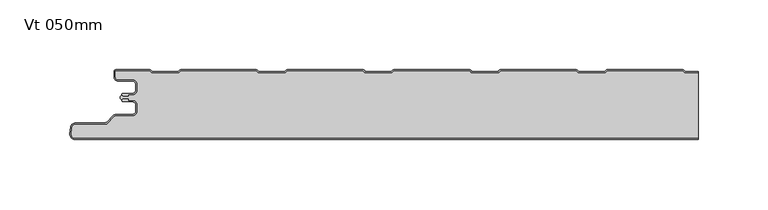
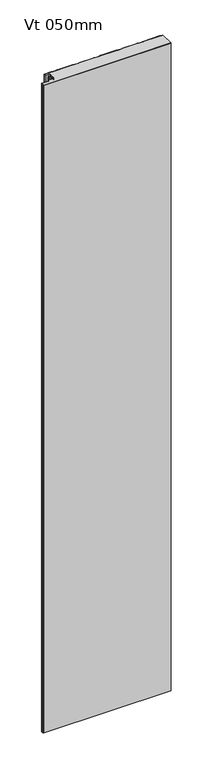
"""IFC4 building model written with IfcOpenShell, lengths in millimetres: plate geometry, KIP-MEX-KSS-1067-R19-CP-Vt-OP_SL : Vt 050mm."""

from ifc_helpers import new_model, si_unit, point, frame, frame_2d, origin, origin_with_axes, place, context, project, spatial, polyline, circle_curve, trimmed, segment, composite_curve, outline, extrude, source, transform, mapped, element, save
from ifc_brep_helpers import plane_surface, cylinder_surface, revolved_surface, advanced_brep


def vt_050mm_d62c415d(model_context):
    return source(origin(), model_context, "Body", "SolidModel", [
        advanced_brep(
        [(-205.4683, -21.670875, 2400.0), (-204.267176, -20.5014003, 2400.0), (-200.5087826, -20.5014003, 2400.0), (-200.5087826, -21.8998791, 2400.0), (-197.8096715, -21.8998791, 2400.0), (-194.4596762, -25.2498744, 2400.0), (-194.4596762, -29.6498656, 2400.0), (-197.8096715, -32.9998609, 2400.0), (-209.6205606, -32.9998609, 2400.0), (-210.8226383, -33.4977778, 2400.0), (-216.3247094, -38.9998489, 2400.0), (-238.4198391, -38.9998489, 2400.0), (-241.0765707, -41.2184509, 2400.0), (-241.5125697, -46.2002718, 2400.0), (-238.9521175, -48.9945967, 2400.0), (206.4999998, -49.0, 2400.0), (206.4999998, -2.2002391, 2400.0), (196.9189068, -2.2002391, 2400.0), (195.5332739, -1.0000084, 2400.0), (141.4798585, -1.0000084, 2400.0), (140.0942255, -2.2002391, 2400.0), (120.7190592, -2.2002391, 2400.0), (119.3334263, -1.0000084, 2400.0), (65.2800109, -1.0000084, 2400.0), (63.8943779, -2.2002391, 2400.0), (44.5192116, -2.2002391, 2400.0), (43.1335787, -1.0000084, 2400.0), (-10.9198367, -1.0000084, 2400.0), (-12.3054697, -2.2002391, 2400.0), (-31.680636, -2.2002391, 2400.0), (-33.0662689, -1.0000084, 2400.0), (-87.1196843, -1.0000084, 2400.0), (-88.5053173, -2.2002391, 2400.0), (-107.8804836, -2.2002391, 2400.0), (-109.2661165, -1.0000084, 2400.0), (-163.3195319, -1.0000084, 2400.0), (-164.7051649, -2.2002391, 2400.0), (-184.0803312, -2.2002391, 2400.0), (-185.4659738, -1.0, 2400.0), (-209.9662504, -1.0, 2400.0), (-209.9662504, -5.2315473, 2400.0), (-208.1962562, -7.0015415, 2400.0), (-197.7762777, -7.0015415, 2400.0), (-194.4762818, -10.3015374, 2400.0), (-194.4762818, -14.7015286, 2400.0), (-197.7762775, -18.0015243, 2400.0), (-200.4684873, -18.0015243, 2400.0), (-200.4684873, -19.0015188, 2400.0), (-204.468691, -19.0015188, 2400.0), (-205.4686882, -18.0015275, 2400.0), (-206.4999998, -19.0328392, 2400.0), (-206.4999998, -20.6391751, 2400.0), (-205.4683, -21.670875, 0.0), (-206.4999998, -20.6391751, 0.0), (-206.4999998, -19.0328392, 0.0), (-205.4686882, -18.0015275, 0.0), (-204.468691, -19.0015188, 0.0), (-200.4684873, -19.0015188, 0.0), (-200.4684873, -18.0015243, 0.0), (-197.7762775, -18.0015243, 0.0), (-194.4762818, -14.7015286, 0.0), (-194.4762818, -10.3015374, 0.0), (-197.7762777, -7.0015415, 0.0), (-208.1962562, -7.0015415, 0.0), (-209.9662504, -5.2315473, 0.0), (-209.9662504, -1.0, 0.0), (-185.4659738, -1.0, 0.0), (-184.0803312, -2.2002391, 0.0), (-164.7051649, -2.2002391, 0.0), (-163.3195319, -1.0000084, 0.0), (-109.2661165, -1.0000084, 0.0), (-107.8804836, -2.2002391, 0.0), (-88.5053173, -2.2002391, 0.0), (-87.1196843, -1.0000084, 0.0), (-33.0662689, -1.0000084, 0.0), (-31.680636, -2.2002391, 0.0), (-12.3054697, -2.2002391, 0.0), (-10.9198367, -1.0000084, 0.0), (43.1335787, -1.0000084, 0.0), (44.5192116, -2.2002391, 0.0), (63.8943779, -2.2002391, 0.0), (65.2800109, -1.0000084, 0.0), (119.3334263, -1.0000084, 0.0), (120.7190592, -2.2002391, 0.0), (140.0942255, -2.2002391, 0.0), (141.4798585, -1.0000084, 0.0), (195.5332739, -1.0000084, 0.0), (196.9189068, -2.2002391, 0.0), (206.4999998, -2.2002391, 0.0), (206.4999998, -49.0, 0.0), (-238.9521175, -49.0, 0.0), (-241.5125697, -46.2002718, 0.0), (-241.0765707, -41.2184509, 0.0), (-238.4198391, -38.9998489, 0.0), (-216.3247094, -38.9998489, 0.0), (-210.8226383, -33.4977778, 0.0), (-209.6205606, -32.9998609, 0.0), (-197.8096715, -32.9998609, 0.0), (-194.4596762, -29.6498656, 0.0), (-194.4596762, -25.2498744, 0.0), (-197.8096715, -21.8998791, 0.0), (-200.5087826, -21.8998791, 0.0), (-200.5087826, -20.5014003, 0.0), (-204.267176, -20.5014003, 0.0)],
        [
            (0, 1, circle_curve(frame((-204.2686906, -21.7013969, 2400.0), z_axis=(0.0, 0.0, -1.0), x_axis=(-1.0, 0.0, 0.0)), 1.1999976)),
            (1, 2),
            (2, 3),
            (3, 4),
            (4, 5, circle_curve(frame((-197.8096715, -25.2498744, 2400.0), z_axis=(0.0, 0.0, -1.0), x_axis=(-1.0, 0.0, 0.0)), 3.3499953)),
            (5, 6),
            (6, 7, circle_curve(frame((-197.8096715, -29.6498656, 2400.0), z_axis=(0.0, 0.0, -1.0), x_axis=(-1.0, 0.0, 0.0)), 3.3499953)),
            (7, 8),
            (8, 9, circle_curve(frame((-209.6205606, -34.6998555, 2400.0), z_axis=(0.0, 0.0, 1.0), x_axis=(-1.0, 0.0, 0.0)), 1.6999946)),
            (9, 10),
            (10, 11),
            (11, 12, circle_curve(frame((-238.4198391, -41.6998415, 2400.0), z_axis=(0.0, 0.0, 1.0), x_axis=(-1.0, 0.0, 0.0)), 2.6999926)),
            (12, 13),
            (13, 14, circle_curve(frame((-238.9521175, -46.4243575, 2400.0), z_axis=(0.0, 0.0, 1.0), x_axis=(-1.0, 0.0, 0.0)), 2.5702393)),
            (14, 15),
            (15, 16),
            (16, 17),
            (17, 18),
            (18, 19),
            (19, 20),
            (20, 21),
            (21, 22),
            (22, 23),
            (23, 24),
            (24, 25),
            (25, 26),
            (26, 27),
            (27, 28),
            (28, 29),
            (29, 30),
            (30, 31),
            (31, 32),
            (32, 33),
            (33, 34),
            (34, 35),
            (35, 36),
            (36, 37),
            (37, 38),
            (38, 39),
            (39, 40),
            (40, 41, circle_curve(frame((-208.1962562, -5.2315473, 2400.0), z_axis=(0.0, 0.0, 1.0), x_axis=(-1.0, 0.0, 0.0)), 1.7699942)),
            (41, 42),
            (42, 43, circle_curve(frame((-197.7762777, -10.3015374, 2400.0), z_axis=(0.0, 0.0, -1.0), x_axis=(-1.0, 0.0, 0.0)), 3.2999959)),
            (43, 44),
            (44, 45, circle_curve(frame((-197.7762775, -14.7015286, 2400.0), z_axis=(0.0, 0.0, -1.0), x_axis=(-1.0, 0.0, 0.0)), 3.2999957)),
            (45, 46),
            (46, 47),
            (47, 48),
            (48, 49, circle_curve(frame((-204.468691, -18.0015216, 2400.0), z_axis=(0.0, 0.0, -1.0), x_axis=(-1.0, 0.0, 0.0)), 0.9999972)),
            (49, 50),
            (50, 51),
            (51, 0),
            (52, 53),
            (53, 54),
            (54, 55),
            (55, 56, circle_curve(frame((-204.468691, -18.0015216, 0.0), z_axis=(0.0, 0.0, 1.0), x_axis=(-1.0, 0.0, 0.0)), 0.9999972)),
            (56, 57),
            (57, 58),
            (58, 59),
            (59, 60, circle_curve(frame((-197.7762775, -14.7015286, 0.0), z_axis=(0.0, 0.0, 1.0), x_axis=(-1.0, 0.0, 0.0)), 3.2999957)),
            (60, 61),
            (61, 62, circle_curve(frame((-197.7762777, -10.3015374, 0.0), z_axis=(0.0, 0.0, 1.0), x_axis=(-1.0, 0.0, 0.0)), 3.2999959)),
            (62, 63),
            (63, 64, circle_curve(frame((-208.1962562, -5.2315473, 0.0), z_axis=(0.0, 0.0, -1.0), x_axis=(-1.0, 0.0, 0.0)), 1.7699942)),
            (64, 65),
            (65, 66),
            (66, 67),
            (67, 68),
            (68, 69),
            (69, 70),
            (70, 71),
            (71, 72),
            (72, 73),
            (73, 74),
            (74, 75),
            (75, 76),
            (76, 77),
            (77, 78),
            (78, 79),
            (79, 80),
            (80, 81),
            (81, 82),
            (82, 83),
            (83, 84),
            (84, 85),
            (85, 86),
            (86, 87),
            (87, 88),
            (88, 89),
            (89, 90),
            (90, 91, circle_curve(frame((-238.9521175, -46.4243575, 0.0), z_axis=(0.0, 0.0, -1.0), x_axis=(-1.0, 0.0, 0.0)), 2.5702393)),
            (91, 92),
            (92, 93, circle_curve(frame((-238.4198391, -41.6998415, 0.0), z_axis=(0.0, 0.0, -1.0), x_axis=(-1.0, 0.0, 0.0)), 2.6999926)),
            (93, 94),
            (94, 95),
            (95, 96, circle_curve(frame((-209.6205606, -34.6998555, 0.0), z_axis=(0.0, 0.0, -1.0), x_axis=(-1.0, 0.0, 0.0)), 1.6999946)),
            (96, 97),
            (97, 98, circle_curve(frame((-197.8096715, -29.6498656, 0.0), z_axis=(0.0, 0.0, 1.0), x_axis=(-1.0, 0.0, 0.0)), 3.3499953)),
            (98, 99),
            (99, 100, circle_curve(frame((-197.8096715, -25.2498744, 0.0), z_axis=(0.0, 0.0, 1.0), x_axis=(-1.0, 0.0, 0.0)), 3.3499953)),
            (100, 101),
            (101, 102),
            (102, 103),
            (103, 52, circle_curve(frame((-204.2686906, -21.7013969, 0.0), z_axis=(0.0, 0.0, 1.0), x_axis=(-1.0, 0.0, 0.0)), 1.1999976)),
            (51, 53),
            (52, 0),
            (50, 54),
            (49, 55),
            (48, 56),
            (47, 57),
            (46, 58),
            (45, 59),
            (44, 60),
            (43, 61),
            (42, 62),
            (41, 63),
            (40, 64),
            (39, 65),
            (4, 100),
            (99, 5),
            (3, 101),
            (2, 102),
            (1, 103),
            (38, 66),
            (37, 67),
            (36, 68),
            (35, 69),
            (34, 70),
            (33, 71),
            (32, 72),
            (31, 73),
            (30, 74),
            (29, 75),
            (28, 76),
            (27, 77),
            (26, 78),
            (25, 79),
            (24, 80),
            (23, 81),
            (22, 82),
            (21, 83),
            (20, 84),
            (19, 85),
            (18, 86),
            (17, 87),
            (16, 88),
            (15, 89),
            (14, 90),
            (13, 91),
            (12, 92),
            (11, 93),
            (10, 94),
            (9, 95),
            (8, 96),
            (7, 97),
            (6, 98),
        ],
        [
            plane_surface(frame((326.9000002, -49.0, 2400.0), z_axis=(0.0, 0.0, 1.0), x_axis=(0.0, -1.0, 0.0))),
            plane_surface(frame((326.9000002, -49.0, 0.0), z_axis=(0.0, 0.0, -1.0), x_axis=(0.0, -1.0, 0.0))),
            plane_surface(frame((-205.4683, -21.670875, 2400.0), z_axis=(-0.707106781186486, -0.7071067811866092, 0.0), x_axis=(0.0, 0.0, -1.0))),
            plane_surface(frame((-206.4999998, -20.6391751, 2400.0), z_axis=(-1.0, 0.0, 0.0), x_axis=(0.0, 0.0, -1.0))),
            plane_surface(frame((-206.4999998, -19.0328392, 2400.0), z_axis=(-0.7071067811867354, 0.7071067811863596, 0.0), x_axis=(0.0, 0.0, -1.0))),
            revolved_surface(polyline([(-205.4686882, -18.0015216, 0.0), (-205.4686882, -18.0015216, 2400.0)]), (-204.468691, -18.0015216, 2400.0), (0.0, 0.0, -1.0)),
            plane_surface(frame((-204.468691, -19.0015188, 2400.0), z_axis=(0.0, 1.0, 0.0), x_axis=(0.0, 0.0, -1.0))),
            plane_surface(frame((-200.4684873, -19.0015188, 2400.0), z_axis=(-1.0, 0.0, 0.0), x_axis=(0.0, 0.0, -1.0))),
            plane_surface(frame((-200.4684873, -18.0015243, 2400.0), z_axis=(0.0, 1.0, 0.0), x_axis=(0.0, 0.0, -1.0))),
            revolved_surface(polyline([(-201.0762732, -14.7015286, 0.0), (-201.0762732, -14.7015286, 2400.0)]), (-197.7762775, -14.7015286, 2400.0), (0.0, 0.0, -1.0)),
            plane_surface(frame((-194.4762818, -14.7015286, 2400.0), z_axis=(-1.0, 0.0, 0.0), x_axis=(0.0, 0.0, -1.0))),
            revolved_surface(polyline([(-201.0762736, -10.3015374, 0.0), (-201.0762736, -10.3015374, 2400.0)]), (-197.7762777, -10.3015374, 2400.0), (0.0, 0.0, -1.0)),
            plane_surface(frame((-197.7762777, -7.0015415, 2400.0), z_axis=(0.0, -1.0, 0.0), x_axis=(0.0, 0.0, -1.0))),
            cylinder_surface(frame((-208.1962562, -5.2315473, 2400.0), z_axis=(0.0, 0.0, 1.0), x_axis=(-1.0, 0.0, 0.0)), 1.7699942),
            plane_surface(frame((-209.9662504, -5.2315473, 2400.0), z_axis=(-1.0, 0.0, 0.0), x_axis=(0.0, 0.0, -1.0))),
            revolved_surface(polyline([(-201.1596668, -25.2498744, 0.0), (-201.1596668, -25.2498744, 2400.0)]), (-197.8096715, -25.2498744, 2400.0), (0.0, 0.0, -1.0)),
            plane_surface(frame((-197.8096715, -21.8998791, 2400.0), z_axis=(0.0, -1.0, 0.0), x_axis=(0.0, 0.0, -1.0))),
            plane_surface(frame((-200.5087826, -21.8998791, 2400.0), z_axis=(-1.0, 0.0, 0.0), x_axis=(0.0, 0.0, -1.0))),
            plane_surface(frame((-200.5087826, -20.5014003, 2400.0), z_axis=(0.0, -1.0, 0.0), x_axis=(0.0, 0.0, -1.0))),
            revolved_surface(polyline([(-205.4686882, -21.7013969, 0.0), (-205.4686882, -21.7013969, 2400.0)]), (-204.2686906, -21.7013969, 2400.0), (0.0, 0.0, -1.0)),
            plane_surface(frame((-209.9662504, -1.0, 2400.0), z_axis=(0.0, 1.0, 0.0), x_axis=(0.0, 0.0, -1.0))),
            plane_surface(frame((-185.4659738, -1.0, 2400.0), z_axis=(0.6547276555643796, 0.7558648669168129, 0.0), x_axis=(0.0, 0.0, -1.0))),
            plane_surface(frame((-184.0803312, -2.2002391, 2400.0), z_axis=(0.0, 1.0, 0.0), x_axis=(0.0, 0.0, -1.0))),
            plane_surface(frame((-164.7051649, -2.2002391, 2400.0), z_axis=(-0.6547276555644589, 0.7558648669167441, 0.0), x_axis=(0.0, 0.0, -1.0))),
            plane_surface(frame((-163.3195319, -1.0000084, 2400.0), z_axis=(0.0, 1.0, 0.0), x_axis=(0.0, 0.0, -1.0))),
            plane_surface(frame((-109.2661165, -1.0000084, 2400.0), z_axis=(0.6547276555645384, 0.7558648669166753, 0.0), x_axis=(0.0, 0.0, -1.0))),
            plane_surface(frame((-107.8804836, -2.2002391, 2400.0), z_axis=(0.0, 1.0, 0.0), x_axis=(0.0, 0.0, -1.0))),
            plane_surface(frame((-88.5053173, -2.2002391, 2400.0), z_axis=(-0.6547276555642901, 0.7558648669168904, 0.0), x_axis=(0.0, 0.0, -1.0))),
            plane_surface(frame((-87.1196843, -1.0000084, 2400.0), z_axis=(0.0, 1.0, 0.0), x_axis=(0.0, 0.0, -1.0))),
            plane_surface(frame((-33.0662689, -1.0000084, 2400.0), z_axis=(0.6547276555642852, 0.7558648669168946, 0.0), x_axis=(0.0, 0.0, -1.0))),
            plane_surface(frame((-31.680636, -2.2002391, 2400.0), z_axis=(0.0, 1.0, 0.0), x_axis=(0.0, 0.0, -1.0))),
            plane_surface(frame((-12.3054697, -2.2002391, 2400.0), z_axis=(-0.6547276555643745, 0.7558648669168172, 0.0), x_axis=(0.0, 0.0, -1.0))),
            plane_surface(frame((-10.9198367, -1.0000084, 2400.0), z_axis=(0.0, 1.0, 0.0), x_axis=(0.0, 0.0, -1.0))),
            plane_surface(frame((43.1335787, -1.0000084, 2400.0), z_axis=(0.6547276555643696, 0.7558648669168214, 0.0), x_axis=(0.0, 0.0, -1.0))),
            plane_surface(frame((44.5192116, -2.2002391, 2400.0), z_axis=(0.0, 1.0, 0.0), x_axis=(0.0, 0.0, -1.0))),
            plane_surface(frame((63.8943779, -2.2002391, 2400.0), z_axis=(-0.6547276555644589, 0.7558648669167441, 0.0), x_axis=(0.0, 0.0, -1.0))),
            plane_surface(frame((65.2800109, -1.0000084, 2400.0), z_axis=(0.0, 1.0, 0.0), x_axis=(0.0, 0.0, -1.0))),
            plane_surface(frame((119.3334263, -1.0000084, 2400.0), z_axis=(0.654727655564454, 0.7558648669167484, 0.0), x_axis=(0.0, 0.0, -1.0))),
            plane_surface(frame((120.7190592, -2.2002391, 2400.0), z_axis=(0.0, 1.0, 0.0), x_axis=(0.0, 0.0, -1.0))),
            plane_surface(frame((140.0942255, -2.2002391, 2400.0), z_axis=(-0.6547276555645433, 0.7558648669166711, 0.0), x_axis=(0.0, 0.0, -1.0))),
            plane_surface(frame((141.4798585, -1.0000084, 2400.0), z_axis=(0.0, 1.0, 0.0), x_axis=(0.0, 0.0, -1.0))),
            plane_surface(frame((195.5332739, -1.0000084, 2400.0), z_axis=(0.6547276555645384, 0.7558648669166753, 0.0), x_axis=(0.0, 0.0, -1.0))),
            plane_surface(frame((196.9189068, -2.2002391, 2400.0), z_axis=(0.0, 1.0, 0.0), x_axis=(0.0, 0.0, -1.0))),
            plane_surface(frame((206.4999998, -60.0, 2400.0), z_axis=(1.0, 0.0, 0.0), x_axis=(0.0, 0.0, -1.0))),
            plane_surface(frame((818.1656221, -49.0, 2400.0), z_axis=(0.0, -1.0, 0.0), x_axis=(0.0, 0.0, -1.0))),
            cylinder_surface(frame((-238.9521175, -46.4243575, 2400.0), z_axis=(0.0, 0.0, 1.0), x_axis=(-1.0, 0.0, 0.0)), 2.5702393),
            plane_surface(frame((-241.5125697, -46.2002718, 2400.0), z_axis=(-0.9961921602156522, 0.08718474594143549, 0.0), x_axis=(0.0, 0.0, -1.0))),
            cylinder_surface(frame((-238.4198391, -41.6998415, 2400.0), z_axis=(0.0, 0.0, 1.0), x_axis=(-1.0, 0.0, 0.0)), 2.6999926),
            plane_surface(frame((-238.4198391, -38.9998489, 2400.0), z_axis=(0.0, 1.0, 0.0), x_axis=(0.0, 0.0, -1.0))),
            plane_surface(frame((-216.3247094, -38.9998489, 2400.0), z_axis=(-0.7071067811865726, 0.7071067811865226, 0.0), x_axis=(0.0, 0.0, -1.0))),
            cylinder_surface(frame((-209.6205606, -34.6998555, 2400.0), z_axis=(0.0, 0.0, 1.0), x_axis=(-1.0, 0.0, 0.0)), 1.6999946),
            plane_surface(frame((-209.6205606, -32.9998609, 2400.0), z_axis=(0.0, 1.0, 0.0), x_axis=(0.0, 0.0, -1.0))),
            revolved_surface(polyline([(-201.1596668, -29.6498656, 0.0), (-201.1596668, -29.6498656, 2400.0)]), (-197.8096715, -29.6498656, 2400.0), (0.0, 0.0, -1.0)),
            plane_surface(frame((-194.4596762, -29.6498656, 2400.0), z_axis=(-1.0, 0.0, 0.0), x_axis=(0.0, 0.0, -1.0))),
        ],
        [
            (0, [[1, 2, 3, 4, 5, 6, 7, 8, 9, 10, 11, 12, 13, 14, 15, 16, 17, 18, 19, 20, 21, 22, 23, 24, 25, 26, 27, 28, 29, 30, 31, 32, 33, 34, 35, 36, 37, 38, 39, 40, 41, 42, 43, 44, 45, 46, 47, 48, 49, 50, 51, 52]]),
            (1, [[53, 54, 55, 56, 57, 58, 59, 60, 61, 62, 63, 64, 65, 66, 67, 68, 69, 70, 71, 72, 73, 74, 75, 76, 77, 78, 79, 80, 81, 82, 83, 84, 85, 86, 87, 88, 89, 90, 91, 92, 93, 94, 95, 96, 97, 98, 99, 100, 101, 102, 103, 104]]),
            (2, [[105, -53, 106, -52]]),
            (3, [[107, -54, -105, -51]]),
            (4, [[108, -55, -107, -50]]),
            (5, [[109, -56, -108, -49]]),
            (6, [[110, -57, -109, -48]]),
            (7, [[111, -58, -110, -47]]),
            (8, [[112, -59, -111, -46]]),
            (9, [[113, -60, -112, -45]]),
            (10, [[114, -61, -113, -44]]),
            (11, [[115, -62, -114, -43]]),
            (12, [[116, -63, -115, -42]]),
            (13, [[117, -64, -116, -41]]),
            (14, [[118, -65, -117, -40]]),
            (15, [[119, -100, 120, -5]]),
            (16, [[121, -101, -119, -4]]),
            (17, [[122, -102, -121, -3]]),
            (18, [[123, -103, -122, -2]]),
            (19, [[-106, -104, -123, -1]]),
            (20, [[124, -66, -118, -39]]),
            (21, [[125, -67, -124, -38]]),
            (22, [[126, -68, -125, -37]]),
            (23, [[127, -69, -126, -36]]),
            (24, [[128, -70, -127, -35]]),
            (25, [[129, -71, -128, -34]]),
            (26, [[130, -72, -129, -33]]),
            (27, [[131, -73, -130, -32]]),
            (28, [[132, -74, -131, -31]]),
            (29, [[133, -75, -132, -30]]),
            (30, [[134, -76, -133, -29]]),
            (31, [[135, -77, -134, -28]]),
            (32, [[136, -78, -135, -27]]),
            (33, [[137, -79, -136, -26]]),
            (34, [[138, -80, -137, -25]]),
            (35, [[139, -81, -138, -24]]),
            (36, [[140, -82, -139, -23]]),
            (37, [[141, -83, -140, -22]]),
            (38, [[142, -84, -141, -21]]),
            (39, [[143, -85, -142, -20]]),
            (40, [[144, -86, -143, -19]]),
            (41, [[145, -87, -144, -18]]),
            (42, [[-17, 146, -88, -145]]),
            (43, [[147, -89, -146, -16]]),
            (44, [[-90, -147, -15, 148]]),
            (45, [[149, -91, -148, -14]]),
            (46, [[150, -92, -149, -13]]),
            (47, [[151, -93, -150, -12]]),
            (48, [[152, -94, -151, -11]]),
            (49, [[153, -95, -152, -10]]),
            (50, [[154, -96, -153, -9]]),
            (51, [[155, -97, -154, -8]]),
            (52, [[156, -98, -155, -7]]),
            (53, [[-120, -99, -156, -6]]),
        ],
    ),
        advanced_brep(
        [(-204.468691, -17.0015159, 2400.0), (-205.4686883, -18.0015191, 2400.0), (-204.468691, -19.0015105, 2400.0), (-200.4684874, -19.0015105, 2400.0), (-200.4684874, -18.0015159, 2400.0), (-197.7762776, -18.0015159, 2400.0), (-194.4762819, -14.7015202, 2400.0), (-194.4762819, -10.301529, 2400.0), (-197.7762774, -7.0015335, 2400.0), (-208.1962563, -7.0015335, 2400.0), (-209.9662505, -5.2315393, 2400.0), (-209.9662505, -0.9999916, 2400.0), (-185.4659738, -0.9999916, 2400.0), (-184.0803312, -2.2002307, 2400.0), (-164.7051649, -2.2002307, 2400.0), (-163.319532, -1.0, 2400.0), (-109.2661166, -1.0, 2400.0), (-107.8804836, -2.2002307, 2400.0), (-88.5053173, -2.2002307, 2400.0), (-87.1196844, -1.0, 2400.0), (-33.066269, -1.0, 2400.0), (-31.680636, -2.2002307, 2400.0), (-12.3054697, -2.2002307, 2400.0), (-10.9198368, -1.0, 2400.0), (43.1335786, -1.0, 2400.0), (44.5192116, -2.2002307, 2400.0), (63.8943779, -2.2002307, 2400.0), (65.2800108, -1.0, 2400.0), (119.3334262, -1.0, 2400.0), (120.7190592, -2.2002307, 2400.0), (140.0942255, -2.2002307, 2400.0), (141.4798584, -1.0, 2400.0), (195.5332738, -1.0, 2400.0), (196.9189068, -2.2002307, 2400.0), (206.4999998, -2.2002307, 2400.0), (206.4999998, -1.2002307, 2400.0), (197.2917872, -1.2002307, 2400.0), (196.3007396, -0.3417885, 2400.0), (195.3841227, 0.0, 2400.0), (141.6290096, 0.0, 2400.0), (140.7123927, -0.3417885, 2400.0), (139.7213451, -1.2002307, 2400.0), (121.0919396, -1.2002307, 2400.0), (120.100892, -0.3417885, 2400.0), (119.1842751, 0.0, 2400.0), (65.429162, 0.0, 2400.0), (64.5125451, -0.3417885, 2400.0), (63.5214975, -1.2002307, 2400.0), (44.892092, -1.2002307, 2400.0), (43.9010444, -0.3417885, 2400.0), (42.9844275, 0.0, 2400.0), (-10.7706856, 0.0, 2400.0), (-11.6873025, -0.3417885, 2400.0), (-12.6783501, -1.2002307, 2400.0), (-31.3077556, -1.2002307, 2400.0), (-32.2988032, -0.3417885, 2400.0), (-33.2154201, 0.0, 2400.0), (-86.9705332, 0.0, 2400.0), (-87.8871501, -0.3417885, 2400.0), (-88.8781977, -1.2002307, 2400.0), (-107.5076032, -1.2002307, 2400.0), (-108.4986508, -0.3417885, 2400.0), (-109.4152677, 0.0, 2400.0), (-163.1703808, 0.0, 2400.0), (-164.0869977, -0.3417885, 2400.0), (-165.0780453, -1.2002307, 2400.0), (-183.7074508, -1.2002307, 2400.0), (-184.6984984, -0.3417885, 2400.0), (-185.6152067, 0.0, 2400.0), (-209.5662543, 8.4e-06, 2400.0), (-210.9662505, -1.3999878, 2400.0), (-210.9662505, -5.2315393, 2400.0), (-208.1962563, -8.0015335, 2400.0), (-197.7762774, -8.0015335, 2400.0), (-195.4762819, -10.301529, 2400.0), (-195.4762819, -14.7015202, 2400.0), (-197.7762776, -17.0015159, 2400.0), (-204.468691, -17.0015159, 0.0), (-197.7762776, -17.0015159, 0.0), (-195.4762819, -14.7015202, 0.0), (-195.4762819, -10.301529, 0.0), (-197.7762774, -8.0015335, 0.0), (-208.1962563, -8.0015335, 0.0), (-210.9662505, -5.2315393, 0.0), (-210.9662505, -1.3999878, 0.0), (-209.5662543, 8.4e-06, 0.0), (-185.6151153, 8.4e-06, 0.0), (-184.6984984, -0.3417885, 0.0), (-183.7074508, -1.2002307, 0.0), (-165.0780453, -1.2002307, 0.0), (-164.0869977, -0.3417885, 0.0), (-163.1703808, 0.0, 0.0), (-109.4152677, 0.0, 0.0), (-108.4986508, -0.3417885, 0.0), (-107.5076032, -1.2002307, 0.0), (-88.8781977, -1.2002307, 0.0), (-87.8871501, -0.3417885, 0.0), (-86.9705332, 0.0, 0.0), (-33.2154201, 0.0, 0.0), (-32.2988032, -0.3417885, 0.0), (-31.3077556, -1.2002307, 0.0), (-12.6783501, -1.2002307, 0.0), (-11.6873025, -0.3417885, 0.0), (-10.7706856, 0.0, 0.0), (42.9844275, 0.0, 0.0), (43.9010444, -0.3417885, 0.0), (44.892092, -1.2002307, 0.0), (63.5214975, -1.2002307, 0.0), (64.5125451, -0.3417885, 0.0), (65.429162, 0.0, 0.0), (119.1842751, 0.0, 0.0), (120.100892, -0.3417885, 0.0), (121.0919396, -1.2002307, 0.0), (139.7213451, -1.2002307, 0.0), (140.7123927, -0.3417885, 0.0), (141.6290096, 0.0, 0.0), (195.3841227, 0.0, 0.0), (196.3007396, -0.3417885, 0.0), (197.2917872, -1.2002307, 0.0), (206.4999998, -1.2002307, 0.0), (206.4999998, -2.2002307, 0.0), (196.9189068, -2.2002307, 0.0), (195.5332738, -1.0, 0.0), (141.4798584, -1.0, 0.0), (140.0942255, -2.2002307, 0.0), (120.7190592, -2.2002307, 0.0), (119.3334262, -1.0, 0.0), (65.2800108, -1.0, 0.0), (63.8943779, -2.2002307, 0.0), (44.5192116, -2.2002307, 0.0), (43.1335786, -1.0, 0.0), (-10.9198368, -1.0, 0.0), (-12.3054697, -2.2002307, 0.0), (-31.680636, -2.2002307, 0.0), (-33.066269, -1.0, 0.0), (-87.1196844, -1.0, 0.0), (-88.5053173, -2.2002307, 0.0), (-107.8804836, -2.2002307, 0.0), (-109.2661166, -1.0, 0.0), (-163.319532, -1.0, 0.0), (-164.7051649, -2.2002307, 0.0), (-184.0803312, -2.2002307, 0.0), (-185.4659738, -0.9999916, 0.0), (-209.9662505, -0.9999916, 0.0), (-209.9662505, -5.2315393, 0.0), (-208.1962563, -7.0015335, 0.0), (-197.7762774, -7.0015335, 0.0), (-194.4762819, -10.301529, 0.0), (-194.4762819, -14.7015202, 0.0), (-197.7762776, -18.0015159, 0.0), (-200.4684874, -18.0015159, 0.0), (-200.4684874, -19.0015105, 0.0), (-204.468691, -19.0015105, 0.0), (-205.4686882, -18.0015192, 0.0)],
        [
            (0, 1, circle_curve(frame((-204.468691, -18.0015132, 2400.0), z_axis=(0.0, 0.0, 1.0), x_axis=(1.0, 0.0, 0.0)), 0.9999973)),
            (1, 2, circle_curve(frame((-204.468691, -18.0015133, 2400.0), z_axis=(0.0, 0.0, 1.0), x_axis=(1.0, 0.0, 0.0)), 0.9999972)),
            (2, 3),
            (3, 4),
            (4, 5),
            (5, 6, circle_curve(frame((-197.7762776, -14.7015202, 2400.0), z_axis=(0.0, 0.0, 1.0), x_axis=(1.0, 0.0, 0.0)), 3.2999957)),
            (6, 7),
            (7, 8, circle_curve(frame((-197.7762774, -10.301529, 2400.0), z_axis=(0.0, 0.0, 1.0), x_axis=(1.0, 0.0, 0.0)), 3.2999955)),
            (8, 9),
            (9, 10, circle_curve(frame((-208.1962563, -5.2315393, 2400.0), z_axis=(0.0, 0.0, -1.0), x_axis=(1.0, 0.0, 0.0)), 1.7699942)),
            (10, 11),
            (11, 12),
            (12, 13),
            (13, 14),
            (14, 15),
            (15, 16),
            (16, 17),
            (17, 18),
            (18, 19),
            (19, 20),
            (20, 21),
            (21, 22),
            (22, 23),
            (23, 24),
            (24, 25),
            (25, 26),
            (26, 27),
            (27, 28),
            (28, 29),
            (29, 30),
            (30, 31),
            (31, 32),
            (32, 33),
            (33, 34),
            (34, 35),
            (35, 36),
            (36, 37),
            (37, 38, circle_curve(frame((195.3841227, -1.3999972, 2400.0), z_axis=(0.0, 0.0, 1.0), x_axis=(1.0, 0.0, 0.0)), 1.3999972)),
            (38, 39),
            (39, 40, circle_curve(frame((141.6290096, -1.3999972, 2400.0), z_axis=(0.0, 0.0, 1.0), x_axis=(1.0, 0.0, 0.0)), 1.3999972)),
            (40, 41),
            (41, 42),
            (42, 43),
            (43, 44, circle_curve(frame((119.1842751, -1.3999972, 2400.0), z_axis=(0.0, 0.0, 1.0), x_axis=(1.0, 0.0, 0.0)), 1.3999972)),
            (44, 45),
            (45, 46, circle_curve(frame((65.429162, -1.3999972, 2400.0), z_axis=(0.0, 0.0, 1.0), x_axis=(1.0, 0.0, 0.0)), 1.3999972)),
            (46, 47),
            (47, 48),
            (48, 49),
            (49, 50, circle_curve(frame((42.9844275, -1.3999972, 2400.0), z_axis=(0.0, 0.0, 1.0), x_axis=(1.0, 0.0, 0.0)), 1.3999972)),
            (50, 51),
            (51, 52, circle_curve(frame((-10.7706856, -1.3999972, 2400.0), z_axis=(0.0, 0.0, 1.0), x_axis=(1.0, 0.0, 0.0)), 1.3999972)),
            (52, 53),
            (53, 54),
            (54, 55),
            (55, 56, circle_curve(frame((-33.2154201, -1.3999972, 2400.0), z_axis=(0.0, 0.0, 1.0), x_axis=(1.0, 0.0, 0.0)), 1.3999972)),
            (56, 57),
            (57, 58, circle_curve(frame((-86.9705332, -1.3999972, 2400.0), z_axis=(0.0, 0.0, 1.0), x_axis=(1.0, 0.0, 0.0)), 1.3999972)),
            (58, 59),
            (59, 60),
            (60, 61),
            (61, 62, circle_curve(frame((-109.4152677, -1.3999972, 2400.0), z_axis=(0.0, 0.0, 1.0), x_axis=(1.0, 0.0, 0.0)), 1.3999972)),
            (62, 63),
            (63, 64, circle_curve(frame((-163.1703808, -1.3999972, 2400.0), z_axis=(0.0, 0.0, 1.0), x_axis=(1.0, 0.0, 0.0)), 1.3999972)),
            (64, 65),
            (65, 66),
            (66, 67),
            (67, 68, circle_curve(frame((-185.6151153, -1.3999972, 2400.0), z_axis=(0.0, 0.0, 1.0), x_axis=(1.0, 0.0, 0.0)), 1.3999972)),
            (68, 69),
            (69, 70, circle_curve(frame((-209.5662543, -1.3999878, 2400.0), z_axis=(0.0, 0.0, 1.0), x_axis=(1.0, 0.0, 0.0)), 1.3999962)),
            (70, 71),
            (71, 72, circle_curve(frame((-208.1962563, -5.2315393, 2400.0), z_axis=(0.0, 0.0, 1.0), x_axis=(1.0, 0.0, 0.0)), 2.7699942)),
            (72, 73),
            (73, 74, circle_curve(frame((-197.7762774, -10.301529, 2400.0), z_axis=(0.0, 0.0, -1.0), x_axis=(1.0, 0.0, 0.0)), 2.2999955)),
            (74, 75),
            (75, 76, circle_curve(frame((-197.7762776, -14.7015202, 2400.0), z_axis=(0.0, 0.0, -1.0), x_axis=(1.0, 0.0, 0.0)), 2.2999957)),
            (76, 0),
            (77, 78),
            (78, 79, circle_curve(frame((-197.7762776, -14.7015202, 0.0), z_axis=(0.0, 0.0, 1.0), x_axis=(1.0, 0.0, 0.0)), 2.2999957)),
            (79, 80),
            (80, 81, circle_curve(frame((-197.7762774, -10.301529, 0.0), z_axis=(0.0, 0.0, 1.0), x_axis=(1.0, 0.0, 0.0)), 2.2999955)),
            (81, 82),
            (82, 83, circle_curve(frame((-208.1962563, -5.2315393, 0.0), z_axis=(0.0, 0.0, -1.0), x_axis=(1.0, 0.0, 0.0)), 2.7699942)),
            (83, 84),
            (84, 85, circle_curve(frame((-209.5662543, -1.3999878, 0.0), z_axis=(0.0, 0.0, -1.0), x_axis=(1.0, 0.0, 0.0)), 1.3999962)),
            (85, 86),
            (86, 87, circle_curve(frame((-185.6151153, -1.3999972, 0.0), z_axis=(0.0, 0.0, -1.0), x_axis=(1.0, 0.0, 0.0)), 1.3999972)),
            (87, 88),
            (88, 89),
            (89, 90),
            (90, 91, circle_curve(frame((-163.1703808, -1.3999972, 0.0), z_axis=(0.0, 0.0, -1.0), x_axis=(1.0, 0.0, 0.0)), 1.3999972)),
            (91, 92),
            (92, 93, circle_curve(frame((-109.4152677, -1.3999972, 0.0), z_axis=(0.0, 0.0, -1.0), x_axis=(1.0, 0.0, 0.0)), 1.3999972)),
            (93, 94),
            (94, 95),
            (95, 96),
            (96, 97, circle_curve(frame((-86.9705332, -1.3999972, 0.0), z_axis=(0.0, 0.0, -1.0), x_axis=(1.0, 0.0, 0.0)), 1.3999972)),
            (97, 98),
            (98, 99, circle_curve(frame((-33.2154201, -1.3999972, 0.0), z_axis=(0.0, 0.0, -1.0), x_axis=(1.0, 0.0, 0.0)), 1.3999972)),
            (99, 100),
            (100, 101),
            (101, 102),
            (102, 103, circle_curve(frame((-10.7706856, -1.3999972, 0.0), z_axis=(0.0, 0.0, -1.0), x_axis=(1.0, 0.0, 0.0)), 1.3999972)),
            (103, 104),
            (104, 105, circle_curve(frame((42.9844275, -1.3999972, 0.0), z_axis=(0.0, 0.0, -1.0), x_axis=(1.0, 0.0, 0.0)), 1.3999972)),
            (105, 106),
            (106, 107),
            (107, 108),
            (108, 109, circle_curve(frame((65.429162, -1.3999972, 0.0), z_axis=(0.0, 0.0, -1.0), x_axis=(1.0, 0.0, 0.0)), 1.3999972)),
            (109, 110),
            (110, 111, circle_curve(frame((119.1842751, -1.3999972, 0.0), z_axis=(0.0, 0.0, -1.0), x_axis=(1.0, 0.0, 0.0)), 1.3999972)),
            (111, 112),
            (112, 113),
            (113, 114),
            (114, 115, circle_curve(frame((141.6290096, -1.3999972, 0.0), z_axis=(0.0, 0.0, -1.0), x_axis=(1.0, 0.0, 0.0)), 1.3999972)),
            (115, 116),
            (116, 117, circle_curve(frame((195.3841227, -1.3999972, 0.0), z_axis=(0.0, 0.0, -1.0), x_axis=(1.0, 0.0, 0.0)), 1.3999972)),
            (117, 118),
            (118, 119),
            (119, 120),
            (120, 121),
            (121, 122),
            (122, 123),
            (123, 124),
            (124, 125),
            (125, 126),
            (126, 127),
            (127, 128),
            (128, 129),
            (129, 130),
            (130, 131),
            (131, 132),
            (132, 133),
            (133, 134),
            (134, 135),
            (135, 136),
            (136, 137),
            (137, 138),
            (138, 139),
            (139, 140),
            (140, 141),
            (141, 142),
            (142, 143),
            (143, 144),
            (144, 145, circle_curve(frame((-208.1962563, -5.2315393, 0.0), z_axis=(0.0, 0.0, 1.0), x_axis=(1.0, 0.0, 0.0)), 1.7699942)),
            (145, 146),
            (146, 147, circle_curve(frame((-197.7762774, -10.301529, 0.0), z_axis=(0.0, 0.0, -1.0), x_axis=(1.0, 0.0, 0.0)), 3.2999955)),
            (147, 148),
            (148, 149, circle_curve(frame((-197.7762776, -14.7015202, 0.0), z_axis=(0.0, 0.0, -1.0), x_axis=(1.0, 0.0, 0.0)), 3.2999957)),
            (149, 150),
            (150, 151),
            (151, 152),
            (152, 153, circle_curve(frame((-204.468691, -18.0015133, 0.0), z_axis=(0.0, 0.0, -1.0), x_axis=(1.0, 0.0, 0.0)), 0.9999972)),
            (153, 77, circle_curve(frame((-204.468691, -18.0015132, 0.0), z_axis=(0.0, 0.0, -1.0), x_axis=(1.0, 0.0, 0.0)), 0.9999973)),
            (76, 78),
            (77, 0),
            (75, 79),
            (74, 80),
            (73, 81),
            (72, 82),
            (71, 83),
            (70, 84),
            (69, 85),
            (68, 86),
            (67, 87),
            (66, 88),
            (65, 89),
            (64, 90),
            (63, 91),
            (62, 92),
            (61, 93),
            (60, 94),
            (59, 95),
            (58, 96),
            (57, 97),
            (56, 98),
            (55, 99),
            (54, 100),
            (53, 101),
            (52, 102),
            (51, 103),
            (50, 104),
            (49, 105),
            (48, 106),
            (47, 107),
            (46, 108),
            (45, 109),
            (44, 110),
            (43, 111),
            (42, 112),
            (41, 113),
            (40, 114),
            (39, 115),
            (38, 116),
            (37, 117),
            (36, 118),
            (35, 119),
            (120, 34),
            (33, 121),
            (32, 122),
            (31, 123),
            (30, 124),
            (29, 125),
            (28, 126),
            (27, 127),
            (26, 128),
            (25, 129),
            (24, 130),
            (23, 131),
            (22, 132),
            (21, 133),
            (20, 134),
            (19, 135),
            (18, 136),
            (17, 137),
            (16, 138),
            (15, 139),
            (14, 140),
            (13, 141),
            (12, 142),
            (11, 143),
            (10, 144),
            (9, 145),
            (8, 146),
            (7, 147),
            (6, 148),
            (5, 149),
            (4, 150),
            (3, 151),
            (2, 152),
            (1, 153),
        ],
        [
            plane_surface(frame((326.9000002, 0.0, 2400.0), z_axis=(0.0, 0.0, 1.0), x_axis=(0.0, 1.0, 0.0))),
            plane_surface(frame((326.9000002, 0.0, 0.0), z_axis=(0.0, 0.0, -1.0), x_axis=(0.0, 1.0, 0.0))),
            plane_surface(frame((-204.468691, -17.0015159, 2400.0), z_axis=(0.0, 1.0, 0.0), x_axis=(0.0, 0.0, -1.0))),
            revolved_surface(polyline([(-195.47628189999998, -14.7015202, 0.0), (-195.47628189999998, -14.7015202, 2400.0)]), (-197.7762776, -14.7015202, 2400.0), (0.0, 0.0, -1.0)),
            plane_surface(frame((-195.4762819, -14.7015202, 2400.0), z_axis=(-1.0, 0.0, 0.0), x_axis=(0.0, 0.0, -1.0))),
            revolved_surface(polyline([(-195.4762819, -10.301529, 0.0), (-195.4762819, -10.301529, 2400.0)]), (-197.7762774, -10.301529, 2400.0), (0.0, 0.0, -1.0)),
            plane_surface(frame((-197.7762774, -8.0015335, 2400.0), z_axis=(0.0, -1.0, 0.0), x_axis=(0.0, 0.0, -1.0))),
            cylinder_surface(frame((-208.1962563, -5.2315393, 2400.0), z_axis=(0.0, 0.0, 1.0), x_axis=(1.0, 0.0, 0.0)), 2.7699942),
            plane_surface(frame((-210.9662505, -5.2315393, 2400.0), z_axis=(-1.0, 0.0, 0.0), x_axis=(0.0, 0.0, -1.0))),
            cylinder_surface(frame((-209.5662543, -1.3999878, 2400.0), z_axis=(0.0, 0.0, 1.0), x_axis=(1.0, 0.0, 0.0)), 1.3999962),
            plane_surface(frame((-209.5662543, 8.4e-06, 2400.0), z_axis=(0.0, 1.0, 0.0), x_axis=(0.0, 0.0, -1.0))),
            cylinder_surface(frame((-185.6151153, -1.3999972, 2400.0), z_axis=(0.0, 0.0, 1.0), x_axis=(1.0, 0.0, 0.0)), 1.3999972),
            plane_surface(frame((-184.6984984, -0.3417885, 2400.0), z_axis=(0.6547276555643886, 0.755864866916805, 0.0), x_axis=(0.0, 0.0, -1.0))),
            plane_surface(frame((-174.3927481, -1.2002307, 2400.0), z_axis=(0.0, 1.0, 0.0), x_axis=(0.0, 0.0, -1.0))),
            plane_surface(frame((-165.0780453, -1.2002307, 2400.0), z_axis=(-0.6547276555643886, 0.755864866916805, 0.0), x_axis=(0.0, 0.0, -1.0))),
            cylinder_surface(frame((-163.1703808, -1.3999972, 2400.0), z_axis=(0.0, 0.0, 1.0), x_axis=(1.0, 0.0, 0.0)), 1.3999972),
            plane_surface(frame((-163.1703808, 0.0, 2400.0), z_axis=(0.0, 1.0, 0.0), x_axis=(0.0, 0.0, -1.0))),
            cylinder_surface(frame((-109.4152677, -1.3999972, 2400.0), z_axis=(0.0, 0.0, 1.0), x_axis=(1.0, 0.0, 0.0)), 1.3999972),
            plane_surface(frame((-108.4986508, -0.3417885, 2400.0), z_axis=(0.6547276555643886, 0.755864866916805, 0.0), x_axis=(0.0, 0.0, -1.0))),
            plane_surface(frame((-98.1929005, -1.2002307, 2400.0), z_axis=(0.0, 1.0, 0.0), x_axis=(0.0, 0.0, -1.0))),
            plane_surface(frame((-88.8781977, -1.2002307, 2400.0), z_axis=(-0.6547276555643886, 0.755864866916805, 0.0), x_axis=(0.0, 0.0, -1.0))),
            cylinder_surface(frame((-86.9705332, -1.3999972, 2400.0), z_axis=(0.0, 0.0, 1.0), x_axis=(1.0, 0.0, 0.0)), 1.3999972),
            plane_surface(frame((-86.9705332, 0.0, 2400.0), z_axis=(0.0, 1.0, 0.0), x_axis=(0.0, 0.0, -1.0))),
            cylinder_surface(frame((-33.2154201, -1.3999972, 2400.0), z_axis=(0.0, 0.0, 1.0), x_axis=(1.0, 0.0, 0.0)), 1.3999972),
            plane_surface(frame((-32.2988032, -0.3417885, 2400.0), z_axis=(0.6547276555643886, 0.755864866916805, 0.0), x_axis=(0.0, 0.0, -1.0))),
            plane_surface(frame((-21.9930529, -1.2002307, 2400.0), z_axis=(0.0, 1.0, 0.0), x_axis=(0.0, 0.0, -1.0))),
            plane_surface(frame((-12.6783501, -1.2002307, 2400.0), z_axis=(-0.6547276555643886, 0.755864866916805, 0.0), x_axis=(0.0, 0.0, -1.0))),
            cylinder_surface(frame((-10.7706856, -1.3999972, 2400.0), z_axis=(0.0, 0.0, 1.0), x_axis=(1.0, 0.0, 0.0)), 1.3999972),
            plane_surface(frame((-10.7706856, 0.0, 2400.0), z_axis=(0.0, 1.0, 0.0), x_axis=(0.0, 0.0, -1.0))),
            cylinder_surface(frame((42.9844275, -1.3999972, 2400.0), z_axis=(0.0, 0.0, 1.0), x_axis=(1.0, 0.0, 0.0)), 1.3999972),
            plane_surface(frame((43.9010444, -0.3417885, 2400.0), z_axis=(0.6547276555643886, 0.755864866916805, 0.0), x_axis=(0.0, 0.0, -1.0))),
            plane_surface(frame((54.2067947, -1.2002307, 2400.0), z_axis=(0.0, 1.0, 0.0), x_axis=(0.0, 0.0, -1.0))),
            plane_surface(frame((63.5214975, -1.2002307, 2400.0), z_axis=(-0.6547276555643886, 0.755864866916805, 0.0), x_axis=(0.0, 0.0, -1.0))),
            cylinder_surface(frame((65.429162, -1.3999972, 2400.0), z_axis=(0.0, 0.0, 1.0), x_axis=(1.0, 0.0, 0.0)), 1.3999972),
            plane_surface(frame((65.429162, 0.0, 2400.0), z_axis=(0.0, 1.0, 0.0), x_axis=(0.0, 0.0, -1.0))),
            cylinder_surface(frame((119.1842751, -1.3999972, 2400.0), z_axis=(0.0, 0.0, 1.0), x_axis=(1.0, 0.0, 0.0)), 1.3999972),
            plane_surface(frame((120.100892, -0.3417885, 2400.0), z_axis=(0.6547276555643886, 0.755864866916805, 0.0), x_axis=(0.0, 0.0, -1.0))),
            plane_surface(frame((130.4066423, -1.2002307, 2400.0), z_axis=(0.0, 1.0, 0.0), x_axis=(0.0, 0.0, -1.0))),
            plane_surface(frame((139.7213451, -1.2002307, 2400.0), z_axis=(-0.6547276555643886, 0.755864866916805, 0.0), x_axis=(0.0, 0.0, -1.0))),
            cylinder_surface(frame((141.6290096, -1.3999972, 2400.0), z_axis=(0.0, 0.0, 1.0), x_axis=(1.0, 0.0, 0.0)), 1.3999972),
            plane_surface(frame((141.6290096, 0.0, 2400.0), z_axis=(0.0, 1.0, 0.0), x_axis=(0.0, 0.0, -1.0))),
            cylinder_surface(frame((195.3841227, -1.3999972, 2400.0), z_axis=(0.0, 0.0, 1.0), x_axis=(1.0, 0.0, 0.0)), 1.3999972),
            plane_surface(frame((196.3007396, -0.3417885, 2400.0), z_axis=(0.6547276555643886, 0.755864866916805, 0.0), x_axis=(0.0, 0.0, -1.0))),
            plane_surface(frame((206.6064899, -1.2002307, 2400.0), z_axis=(0.0, 1.0, 0.0), x_axis=(0.0, 0.0, -1.0))),
            plane_surface(frame((216.2940731, -2.2002307, 2400.0), z_axis=(0.0, -1.0, 0.0), x_axis=(0.0, 0.0, -1.0))),
            plane_surface(frame((196.9189068, -2.2002307, 2400.0), z_axis=(-0.6547276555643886, -0.755864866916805, 0.0), x_axis=(0.0, 0.0, -1.0))),
            plane_surface(frame((195.5332738, -1.0, 2400.0), z_axis=(0.0, -1.0, 0.0), x_axis=(0.0, 0.0, -1.0))),
            plane_surface(frame((141.4798584, -1.0, 2400.0), z_axis=(0.6547276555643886, -0.755864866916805, 0.0), x_axis=(0.0, 0.0, -1.0))),
            plane_surface(frame((140.0942255, -2.2002307, 2400.0), z_axis=(0.0, -1.0, 0.0), x_axis=(0.0, 0.0, -1.0))),
            plane_surface(frame((120.7190592, -2.2002307, 2400.0), z_axis=(-0.6547276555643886, -0.755864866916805, 0.0), x_axis=(0.0, 0.0, -1.0))),
            plane_surface(frame((119.3334262, -1.0, 2400.0), z_axis=(0.0, -1.0, 0.0), x_axis=(0.0, 0.0, -1.0))),
            plane_surface(frame((65.2800108, -1.0, 2400.0), z_axis=(0.6547276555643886, -0.755864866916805, 0.0), x_axis=(0.0, 0.0, -1.0))),
            plane_surface(frame((63.8943779, -2.2002307, 2400.0), z_axis=(0.0, -1.0, 0.0), x_axis=(0.0, 0.0, -1.0))),
            plane_surface(frame((44.5192116, -2.2002307, 2400.0), z_axis=(-0.6547276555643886, -0.755864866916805, 0.0), x_axis=(0.0, 0.0, -1.0))),
            plane_surface(frame((43.1335786, -1.0, 2400.0), z_axis=(0.0, -1.0, 0.0), x_axis=(0.0, 0.0, -1.0))),
            plane_surface(frame((-10.9198368, -1.0, 2400.0), z_axis=(0.6547276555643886, -0.755864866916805, 0.0), x_axis=(0.0, 0.0, -1.0))),
            plane_surface(frame((-12.3054697, -2.2002307, 2400.0), z_axis=(0.0, -1.0, 0.0), x_axis=(0.0, 0.0, -1.0))),
            plane_surface(frame((-31.680636, -2.2002307, 2400.0), z_axis=(-0.6547276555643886, -0.755864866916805, 0.0), x_axis=(0.0, 0.0, -1.0))),
            plane_surface(frame((-33.066269, -1.0, 2400.0), z_axis=(0.0, -1.0, 0.0), x_axis=(0.0, 0.0, -1.0))),
            plane_surface(frame((-87.1196844, -1.0, 2400.0), z_axis=(0.6547276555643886, -0.755864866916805, 0.0), x_axis=(0.0, 0.0, -1.0))),
            plane_surface(frame((-88.5053173, -2.2002307, 2400.0), z_axis=(0.0, -1.0, 0.0), x_axis=(0.0, 0.0, -1.0))),
            plane_surface(frame((-107.8804836, -2.2002307, 2400.0), z_axis=(-0.6547276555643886, -0.755864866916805, 0.0), x_axis=(0.0, 0.0, -1.0))),
            plane_surface(frame((-109.2661166, -1.0, 2400.0), z_axis=(0.0, -1.0, 0.0), x_axis=(0.0, 0.0, -1.0))),
            plane_surface(frame((-163.319532, -1.0, 2400.0), z_axis=(0.6547276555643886, -0.755864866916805, 0.0), x_axis=(0.0, 0.0, -1.0))),
            plane_surface(frame((-164.7051649, -2.2002307, 2400.0), z_axis=(0.0, -1.0, 0.0), x_axis=(0.0, 0.0, -1.0))),
            plane_surface(frame((-184.0803312, -2.2002307, 2400.0), z_axis=(-0.6547276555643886, -0.755864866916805, 0.0), x_axis=(0.0, 0.0, -1.0))),
            plane_surface(frame((-185.4659738, -0.9999916, 2400.0), z_axis=(0.0, -1.0, 0.0), x_axis=(0.0, 0.0, -1.0))),
            plane_surface(frame((-209.9662505, -0.9999916, 2400.0), z_axis=(1.0, 0.0, 0.0), x_axis=(0.0, 0.0, -1.0))),
            revolved_surface(polyline([(-206.42626209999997, -5.2315393, 0.0), (-206.42626209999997, -5.2315393, 2400.0)]), (-208.1962563, -5.2315393, 2400.0), (0.0, 0.0, -1.0)),
            plane_surface(frame((-208.1962563, -7.0015335, 2400.0), z_axis=(0.0, 1.0, 0.0), x_axis=(0.0, 0.0, -1.0))),
            cylinder_surface(frame((-197.7762774, -10.301529, 2400.0), z_axis=(0.0, 0.0, 1.0), x_axis=(1.0, 0.0, 0.0)), 3.2999955),
            plane_surface(frame((-194.4762819, -10.301529, 2400.0), z_axis=(1.0, 0.0, 0.0), x_axis=(0.0, 0.0, -1.0))),
            cylinder_surface(frame((-197.7762776, -14.7015202, 2400.0), z_axis=(0.0, 0.0, 1.0), x_axis=(1.0, 0.0, 0.0)), 3.2999957),
            plane_surface(frame((-197.7762776, -18.0015159, 2400.0), z_axis=(0.0, -1.0, 0.0), x_axis=(0.0, 0.0, -1.0))),
            plane_surface(frame((-200.4684874, -18.0015159, 2400.0), z_axis=(1.0, 0.0, 0.0), x_axis=(0.0, 0.0, -1.0))),
            plane_surface(frame((-200.4684874, -19.0015105, 2400.0), z_axis=(0.0, -1.0, 0.0), x_axis=(0.0, 0.0, -1.0))),
            cylinder_surface(frame((-204.468691, -18.0015133, 2400.0), z_axis=(0.0, 0.0, 1.0), x_axis=(1.0, 0.0, 0.0)), 0.9999972),
            cylinder_surface(frame((-204.468691, -18.0015132, 2400.0), z_axis=(0.0, 0.0, 1.0), x_axis=(1.0, 0.0, 0.0)), 0.9999973),
            plane_surface(frame((206.4999998, -60.0, 2400.0), z_axis=(1.0, 0.0, 0.0), x_axis=(0.0, 0.0, -1.0))),
        ],
        [
            (0, [[1, 2, 3, 4, 5, 6, 7, 8, 9, 10, 11, 12, 13, 14, 15, 16, 17, 18, 19, 20, 21, 22, 23, 24, 25, 26, 27, 28, 29, 30, 31, 32, 33, 34, 35, 36, 37, 38, 39, 40, 41, 42, 43, 44, 45, 46, 47, 48, 49, 50, 51, 52, 53, 54, 55, 56, 57, 58, 59, 60, 61, 62, 63, 64, 65, 66, 67, 68, 69, 70, 71, 72, 73, 74, 75, 76, 77]]),
            (1, [[78, 79, 80, 81, 82, 83, 84, 85, 86, 87, 88, 89, 90, 91, 92, 93, 94, 95, 96, 97, 98, 99, 100, 101, 102, 103, 104, 105, 106, 107, 108, 109, 110, 111, 112, 113, 114, 115, 116, 117, 118, 119, 120, 121, 122, 123, 124, 125, 126, 127, 128, 129, 130, 131, 132, 133, 134, 135, 136, 137, 138, 139, 140, 141, 142, 143, 144, 145, 146, 147, 148, 149, 150, 151, 152, 153, 154]]),
            (2, [[155, -78, 156, -77]]),
            (3, [[157, -79, -155, -76]]),
            (4, [[158, -80, -157, -75]]),
            (5, [[159, -81, -158, -74]]),
            (6, [[160, -82, -159, -73]]),
            (7, [[161, -83, -160, -72]]),
            (8, [[162, -84, -161, -71]]),
            (9, [[163, -85, -162, -70]]),
            (10, [[164, -86, -163, -69]]),
            (11, [[165, -87, -164, -68]]),
            (12, [[166, -88, -165, -67]]),
            (13, [[167, -89, -166, -66]]),
            (14, [[168, -90, -167, -65]]),
            (15, [[169, -91, -168, -64]]),
            (16, [[170, -92, -169, -63]]),
            (17, [[171, -93, -170, -62]]),
            (18, [[172, -94, -171, -61]]),
            (19, [[173, -95, -172, -60]]),
            (20, [[174, -96, -173, -59]]),
            (21, [[175, -97, -174, -58]]),
            (22, [[176, -98, -175, -57]]),
            (23, [[177, -99, -176, -56]]),
            (24, [[178, -100, -177, -55]]),
            (25, [[179, -101, -178, -54]]),
            (26, [[180, -102, -179, -53]]),
            (27, [[181, -103, -180, -52]]),
            (28, [[182, -104, -181, -51]]),
            (29, [[183, -105, -182, -50]]),
            (30, [[184, -106, -183, -49]]),
            (31, [[185, -107, -184, -48]]),
            (32, [[186, -108, -185, -47]]),
            (33, [[187, -109, -186, -46]]),
            (34, [[188, -110, -187, -45]]),
            (35, [[189, -111, -188, -44]]),
            (36, [[190, -112, -189, -43]]),
            (37, [[191, -113, -190, -42]]),
            (38, [[192, -114, -191, -41]]),
            (39, [[193, -115, -192, -40]]),
            (40, [[194, -116, -193, -39]]),
            (41, [[195, -117, -194, -38]]),
            (42, [[196, -118, -195, -37]]),
            (43, [[-36, 197, -119, -196]]),
            (44, [[-121, 198, -34, 199]]),
            (45, [[200, -122, -199, -33]]),
            (46, [[201, -123, -200, -32]]),
            (47, [[202, -124, -201, -31]]),
            (48, [[203, -125, -202, -30]]),
            (49, [[204, -126, -203, -29]]),
            (50, [[205, -127, -204, -28]]),
            (51, [[206, -128, -205, -27]]),
            (52, [[207, -129, -206, -26]]),
            (53, [[208, -130, -207, -25]]),
            (54, [[209, -131, -208, -24]]),
            (55, [[210, -132, -209, -23]]),
            (56, [[211, -133, -210, -22]]),
            (57, [[212, -134, -211, -21]]),
            (58, [[213, -135, -212, -20]]),
            (59, [[214, -136, -213, -19]]),
            (60, [[215, -137, -214, -18]]),
            (61, [[216, -138, -215, -17]]),
            (62, [[217, -139, -216, -16]]),
            (63, [[218, -140, -217, -15]]),
            (64, [[219, -141, -218, -14]]),
            (65, [[220, -142, -219, -13]]),
            (66, [[221, -143, -220, -12]]),
            (67, [[222, -144, -221, -11]]),
            (68, [[223, -145, -222, -10]]),
            (69, [[224, -146, -223, -9]]),
            (70, [[225, -147, -224, -8]]),
            (71, [[226, -148, -225, -7]]),
            (72, [[227, -149, -226, -6]]),
            (73, [[228, -150, -227, -5]]),
            (74, [[229, -151, -228, -4]]),
            (75, [[230, -152, -229, -3]]),
            (76, [[231, -153, -230, -2]]),
            (77, [[-156, -154, -231, -1]]),
            (78, [[-198, -120, -197, -35]]),
        ],
    ),
        extrude(outline(composite_curve([segment(polyline([(-242.5087619, -46.1184903), (-242.0690674, -41.0944437)]), True, "CONTINUOUS"), segment(trimmed(circle_curve(frame_2d((-238.4198391, -41.7052448)), 3.6999926), [point((-242.0690674, -41.0944437))], [point((-238.4198391, -38.0052522))], False, "CARTESIAN"), True, "CONTINUOUS"), segment(polyline([(-238.4198391, -38.0052522), (-217.2773995, -38.0052522)]), True, "CONTINUOUS"), segment(trimmed(circle_curve(frame_2d((-217.2773995, -36.7052548)), 1.2999974), [point((-217.2773995, -38.0052522))], [point((-216.3581626, -37.6244918))], True, "CARTESIAN"), True, "CONTINUOUS"), segment(polyline([(-216.3581626, -37.6244918), (-211.5297451, -32.7960743)]), True, "CONTINUOUS"), segment(trimmed(circle_curve(frame_2d((-209.6205606, -34.7052588)), 2.6999946), [point((-211.5297451, -32.7960743))], [point((-209.6205606, -32.0052642))], False, "CARTESIAN"), True, "CONTINUOUS"), segment(polyline([(-209.6205606, -32.0052642), (-197.8096715, -32.0052642)]), True, "CONTINUOUS"), segment(trimmed(circle_curve(frame_2d((-197.8096715, -29.6552689)), 2.3499953), [point((-197.8096715, -32.0052642))], [point((-195.4596762, -29.6552689))], True, "CARTESIAN"), True, "CONTINUOUS"), segment(polyline([(-195.4596762, -29.6552689), (-195.4596762, -25.2552777)]), True, "CONTINUOUS"), segment(trimmed(circle_curve(frame_2d((-197.8096715, -25.2552777)), 2.3499953), [point((-195.4596762, -25.2552777))], [point((-197.8096715, -22.9052824))], True, "CARTESIAN"), True, "CONTINUOUS"), segment(polyline([(-197.8096715, -22.9052824), (-204.3289777, -22.9052824)]), True, "CONTINUOUS"), segment(trimmed(circle_curve(frame_2d((-204.2686906, -21.7068002)), 1.1999976), [point((-204.3289777, -22.9052824))], [point((-205.4683, -21.6762782))], False, "CARTESIAN"), True, "CONTINUOUS"), segment(trimmed(circle_curve(frame_2d((-204.2686906, -21.7068002)), 1.1999976), [point((-205.4683, -21.6762782))], [point((-204.267176, -20.5068035))], False, "CARTESIAN"), True, "CONTINUOUS"), segment(polyline([(-204.267176, -20.5068035), (-200.5087826, -20.5068035), (-200.5087826, -21.9052824), (-197.8096715, -21.9052824)]), True, "CONTINUOUS"), segment(trimmed(circle_curve(frame_2d((-197.8096715, -25.2552777)), 3.3499953), [point((-197.8096715, -21.9052824))], [point((-194.4596762, -25.2552777))], False, "CARTESIAN"), True, "CONTINUOUS"), segment(polyline([(-194.4596762, -25.2552777), (-194.4596762, -29.6552689)]), True, "CONTINUOUS"), segment(trimmed(circle_curve(frame_2d((-197.8096715, -29.6552689)), 3.3499953), [point((-194.4596762, -29.6552689))], [point((-197.8096715, -33.0052642))], False, "CARTESIAN"), True, "CONTINUOUS"), segment(polyline([(-197.8096715, -33.0052642), (-209.6205606, -33.0052642)]), True, "CONTINUOUS"), segment(trimmed(circle_curve(frame_2d((-209.6205606, -34.7052588)), 1.6999946), [point((-209.6205606, -33.0052642))], [point((-210.8226383, -33.5031811))], True, "CARTESIAN"), True, "CONTINUOUS"), segment(polyline([(-210.8226383, -33.5031811), (-216.3247094, -39.0052522), (-238.4198391, -39.0052522)]), True, "CONTINUOUS"), segment(trimmed(circle_curve(frame_2d((-238.4198391, -41.7052448)), 2.6999926), [point((-238.4198391, -39.0052522))], [point((-241.0765707, -41.2238542))], True, "CARTESIAN"), True, "CONTINUOUS"), segment(polyline([(-241.0765707, -41.2238542), (-241.5125697, -46.2056751)]), True, "CONTINUOUS"), segment(trimmed(circle_curve(frame_2d((-238.9521175, -46.4297607)), 2.5702393), [point((-241.5125697, -46.2056751))], [point((-239.0094458, -48.9993606))], True, "CARTESIAN"), True, "CONTINUOUS"), segment(polyline([(-239.0094458, -48.9993606), (206.4999998, -48.9993606), (206.4999998, -50.0), (-238.9521175, -50.0)]), True, "CONTINUOUS"), segment(trimmed(circle_curve(frame_2d((-238.9521175, -46.4297607)), 3.5702393), [point((-238.9521175, -50.0))], [point((-242.5087619, -46.1184903))], False, "CARTESIAN"), True, "CONTINUOUS")], self_intersect=False)), origin_with_axes(), (0.0, 0.0, 1.0), 2400.0),
    ])


if __name__ == "__main__":
    model = new_model("IFC4")
    model_context = context("Model", 3, world=origin())
    ifc_project = project(units=[si_unit("LENGTHUNIT", "METRE", prefix="MILLI")], contexts=[model_context])
    site = spatial("IfcSite", under=ifc_project)
    building = spatial("IfcBuilding", under=site)
    placement = place(None, origin())
    vt_050mm_shape = vt_050mm_d62c415d(model_context)
    element("IfcPlate", 1, ObjectType="KIP-MEX-KSS-1067-R19-CP-Vt-OP_SL : Vt 050mm", at=placement, inside=building, context=model_context, shape_type="MappedRepresentation", body=[
        mapped(vt_050mm_shape, transform((0.0, 0.0, 0.0), x_axis=(1.0, 0.0, 0.0), y_axis=(0.0, 1.0, 0.0), z_axis=(0.0, 0.0, 1.0))),
    ])
    save(model, "model.ifc")
